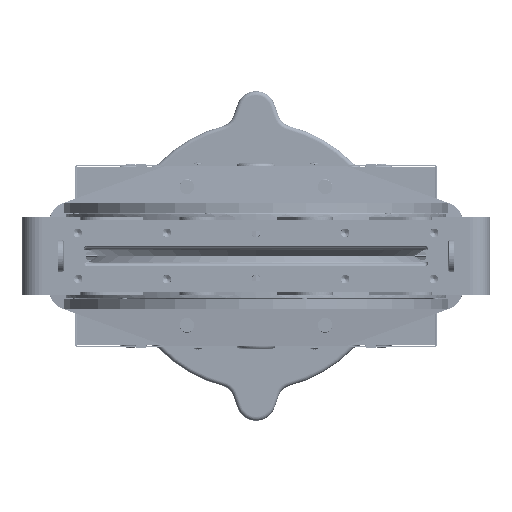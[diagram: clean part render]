
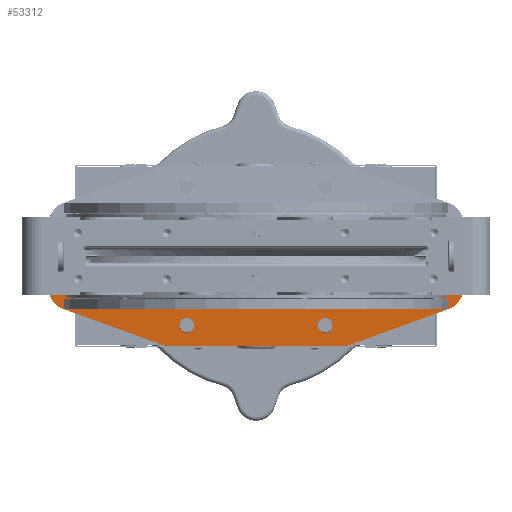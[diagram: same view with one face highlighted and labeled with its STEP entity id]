
A CAD part, front view. The second image highlights one B-rep face of the part: STEP entity #53312.
In plain terms, the highlighted planar face has unit normal (0, -0.998, -0.07).
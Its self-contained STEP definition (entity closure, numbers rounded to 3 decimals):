
#613=B_SPLINE_CURVE_WITH_KNOTS('',3,(#89838,#89839,#89840,#89841),
 .UNSPECIFIED.,.F.,.F.,(4,4),(0.,0.),.UNSPECIFIED.);
#614=B_SPLINE_CURVE_WITH_KNOTS('',3,(#89849,#89850,#89851,#89852),
 .UNSPECIFIED.,.F.,.F.,(4,4),(0.,0.),.UNSPECIFIED.);
#1090=ELLIPSE('',#58067,7.052,7.017);
#1091=ELLIPSE('',#58081,7.017,7.);
#1092=ELLIPSE('',#58083,7.052,7.017);
#1093=ELLIPSE('',#58097,7.017,7.);
#1094=ELLIPSE('',#58159,20.049,20.);
#1095=ELLIPSE('',#58163,20.049,20.);
#1096=ELLIPSE('',#58164,39.095,39.);
#1097=ELLIPSE('',#58165,39.095,39.);
#2560=FACE_BOUND('',#14525,.T.);
#2561=FACE_BOUND('',#14526,.T.);
#3874=LINE('',#88206,#6774);
#4351=LINE('',#89811,#7251);
#4360=LINE('',#89828,#7260);
#4361=LINE('',#89830,#7261);
#4362=LINE('',#89834,#7262);
#4363=LINE('',#89836,#7263);
#4364=LINE('',#89845,#7264);
#4365=LINE('',#89853,#7265);
#6774=VECTOR('',#67825,1.);
#7251=VECTOR('',#69664,1.);
#7260=VECTOR('',#69675,1.);
#7261=VECTOR('',#69676,1.);
#7262=VECTOR('',#69679,1.);
#7263=VECTOR('',#69680,1.);
#7264=VECTOR('',#69683,1.);
#7265=VECTOR('',#69686,1.);
#9249=PLANE('',#58162);
#11215=FACE_OUTER_BOUND('',#14524,.T.);
#14524=EDGE_LOOP('',(#40916,#40917,#40918,#40919,#40920,#40921,#40922,#40923,
#40924,#40925,#40926,#40927,#40928,#40929));
#14525=EDGE_LOOP('',(#40930,#40931));
#14526=EDGE_LOOP('',(#40932,#40933));
#22587=VERTEX_POINT('',#88203);
#22588=VERTEX_POINT('',#88205);
#22970=VERTEX_POINT('',#89596);
#22971=VERTEX_POINT('',#89597);
#22976=VERTEX_POINT('',#89622);
#22977=VERTEX_POINT('',#89623);
#23031=VERTEX_POINT('',#89801);
#23032=VERTEX_POINT('',#89802);
#23035=VERTEX_POINT('',#89810);
#23043=VERTEX_POINT('',#89829);
#23044=VERTEX_POINT('',#89831);
#23045=VERTEX_POINT('',#89833);
#23046=VERTEX_POINT('',#89835);
#23047=VERTEX_POINT('',#89837);
#23048=VERTEX_POINT('',#89842);
#23049=VERTEX_POINT('',#89844);
#23050=VERTEX_POINT('',#89846);
#23051=VERTEX_POINT('',#89848);
#28554=EDGE_CURVE('',#22587,#22588,#3874,.T.);
#29258=EDGE_CURVE('',#22970,#22971,#1090,.T.);
#29269=EDGE_CURVE('',#22971,#22970,#1091,.F.);
#29270=EDGE_CURVE('',#22976,#22977,#1092,.T.);
#29281=EDGE_CURVE('',#22977,#22976,#1093,.F.);
#29356=EDGE_CURVE('',#23031,#23032,#1094,.T.);
#29360=EDGE_CURVE('',#23032,#23035,#4351,.T.);
#29369=EDGE_CURVE('',#23031,#22588,#4360,.F.);
#29370=EDGE_CURVE('',#22587,#23043,#4361,.F.);
#29371=EDGE_CURVE('',#23044,#23043,#1095,.T.);
#29372=EDGE_CURVE('',#23044,#23045,#4362,.T.);
#29373=EDGE_CURVE('',#23045,#23046,#4363,.T.);
#29374=EDGE_CURVE('',#23046,#23047,#613,.T.);
#29375=EDGE_CURVE('',#23047,#23048,#1096,.F.);
#29376=EDGE_CURVE('',#23048,#23049,#4364,.T.);
#29377=EDGE_CURVE('',#23049,#23050,#1097,.F.);
#29378=EDGE_CURVE('',#23050,#23051,#614,.T.);
#29379=EDGE_CURVE('',#23051,#23035,#4365,.T.);
#40916=ORIENTED_EDGE('',*,*,#29356,.F.);
#40917=ORIENTED_EDGE('',*,*,#29369,.T.);
#40918=ORIENTED_EDGE('',*,*,#28554,.F.);
#40919=ORIENTED_EDGE('',*,*,#29370,.T.);
#40920=ORIENTED_EDGE('',*,*,#29371,.F.);
#40921=ORIENTED_EDGE('',*,*,#29372,.T.);
#40922=ORIENTED_EDGE('',*,*,#29373,.T.);
#40923=ORIENTED_EDGE('',*,*,#29374,.T.);
#40924=ORIENTED_EDGE('',*,*,#29375,.T.);
#40925=ORIENTED_EDGE('',*,*,#29376,.T.);
#40926=ORIENTED_EDGE('',*,*,#29377,.T.);
#40927=ORIENTED_EDGE('',*,*,#29378,.T.);
#40928=ORIENTED_EDGE('',*,*,#29379,.T.);
#40929=ORIENTED_EDGE('',*,*,#29360,.F.);
#40930=ORIENTED_EDGE('',*,*,#29258,.T.);
#40931=ORIENTED_EDGE('',*,*,#29269,.T.);
#40932=ORIENTED_EDGE('',*,*,#29270,.T.);
#40933=ORIENTED_EDGE('',*,*,#29281,.T.);
#53312=ADVANCED_FACE('',(#11215,#2560,#2561),#9249,.T.);
#58067=AXIS2_PLACEMENT_3D('',#89598,#69420,#69421);
#58081=AXIS2_PLACEMENT_3D('',#89620,#69452,#69453);
#58083=AXIS2_PLACEMENT_3D('',#89624,#69456,#69457);
#58097=AXIS2_PLACEMENT_3D('',#89646,#69488,#69489);
#58159=AXIS2_PLACEMENT_3D('',#89803,#69656,#69657);
#58162=AXIS2_PLACEMENT_3D('',#89827,#69673,#69674);
#58163=AXIS2_PLACEMENT_3D('',#89832,#69677,#69678);
#58164=AXIS2_PLACEMENT_3D('',#89843,#69681,#69682);
#58165=AXIS2_PLACEMENT_3D('',#89847,#69684,#69685);
#67825=DIRECTION('',(-1.,0.,0.));
#69420=DIRECTION('center_axis',(0.,0.998,0.07));
#69421=DIRECTION('ref_axis',(0.,0.07,-0.998));
#69452=DIRECTION('center_axis',(0.,-0.998,-0.07));
#69453=DIRECTION('ref_axis',(0.,0.07,-0.998));
#69456=DIRECTION('center_axis',(0.,0.998,0.07));
#69457=DIRECTION('ref_axis',(0.,0.07,-0.998));
#69488=DIRECTION('center_axis',(0.,-0.998,-0.07));
#69489=DIRECTION('ref_axis',(0.,0.07,-0.998));
#69656=DIRECTION('center_axis',(0.,0.998,0.07));
#69657=DIRECTION('ref_axis',(0.,0.07,-0.998));
#69664=DIRECTION('',(0.,-0.07,0.998));
#69673=DIRECTION('center_axis',(0.,-0.998,-0.07));
#69674=DIRECTION('ref_axis',(0.,0.07,-0.998));
#69675=DIRECTION('',(-0.939,-0.024,0.342));
#69676=DIRECTION('',(-0.939,0.024,-0.342));
#69677=DIRECTION('center_axis',(0.,0.998,0.07));
#69678=DIRECTION('ref_axis',(0.,0.07,-0.998));
#69679=DIRECTION('',(0.,-0.07,0.998));
#69680=DIRECTION('',(-1.,0.,0.));
#69681=DIRECTION('center_axis',(0.,-0.998,-0.07));
#69682=DIRECTION('ref_axis',(0.,-0.07,0.998));
#69683=DIRECTION('',(-1.,0.,0.));
#69684=DIRECTION('center_axis',(0.,-0.998,-0.07));
#69685=DIRECTION('ref_axis',(0.,-0.07,0.998));
#69686=DIRECTION('',(-1.,0.,0.));
#88203=CARTESIAN_POINT('',(90.,258.5,-87.5));
#88205=CARTESIAN_POINT('',(-90.,258.5,-87.5));
#88206=CARTESIAN_POINT('',(404798.025,258.5,-87.5));
#89596=CARTESIAN_POINT('',(-60.5,257.101,-67.5));
#89597=CARTESIAN_POINT('',(-74.5,257.101,-67.5));
#89598=CARTESIAN_POINT('Origin',(-67.5,257.136,-67.992));
#89620=CARTESIAN_POINT('Origin',(-67.5,257.101,-67.5));
#89622=CARTESIAN_POINT('',(74.5,257.101,-67.5));
#89623=CARTESIAN_POINT('',(60.5,257.101,-67.5));
#89624=CARTESIAN_POINT('Origin',(67.5,257.136,-67.992));
#89646=CARTESIAN_POINT('Origin',(67.5,257.101,-67.5));
#89801=CARTESIAN_POINT('',(-188.841,255.984,-51.525));
#89802=CARTESIAN_POINT('',(-202.,254.67,-32.731));
#89803=CARTESIAN_POINT('Origin',(-182.,254.67,-32.731));
#89810=CARTESIAN_POINT('',(-202.,253.5,-15.997));
#89811=CARTESIAN_POINT('',(-202.,258.5,-87.5));
#89827=CARTESIAN_POINT('Origin',(404798.025,258.5,-87.5));
#89828=CARTESIAN_POINT('',(357230.738,9352.769,-130141.613));
#89829=CARTESIAN_POINT('',(188.84,255.984,-51.525));
#89830=CARTESIAN_POINT('',(357251.885,-8831.726,129908.795));
#89831=CARTESIAN_POINT('',(202.,254.67,-32.731));
#89832=CARTESIAN_POINT('Origin',(182.,254.67,-32.731));
#89833=CARTESIAN_POINT('',(202.,253.5,-15.997));
#89834=CARTESIAN_POINT('',(202.,246.298,86.996));
#89835=CARTESIAN_POINT('',(200.77,253.5,-15.997));
#89836=CARTESIAN_POINT('',(-202.,253.5,-15.997));
#89837=CARTESIAN_POINT('',(200.482,253.497,-15.947));
#89838=CARTESIAN_POINT('Ctrl Pts',(200.77,253.5,-15.997));
#89839=CARTESIAN_POINT('Ctrl Pts',(200.671,253.5,-15.997));
#89840=CARTESIAN_POINT('Ctrl Pts',(200.575,253.499,-15.981));
#89841=CARTESIAN_POINT('Ctrl Pts',(200.482,253.497,-15.947));
#89842=CARTESIAN_POINT('',(164.,255.26,-41.163));
#89843=CARTESIAN_POINT('Origin',(164.,252.533,-2.163));
#89844=CARTESIAN_POINT('',(-164.,255.26,-41.163));
#89845=CARTESIAN_POINT('',(404798.025,255.26,-41.163));
#89846=CARTESIAN_POINT('',(-200.483,253.497,-15.947));
#89847=CARTESIAN_POINT('Origin',(-164.,252.533,-2.163));
#89848=CARTESIAN_POINT('',(-200.771,253.5,-15.997));
#89849=CARTESIAN_POINT('Ctrl Pts',(-200.483,253.497,-15.947));
#89850=CARTESIAN_POINT('Ctrl Pts',(-200.576,253.499,-15.981));
#89851=CARTESIAN_POINT('Ctrl Pts',(-200.672,253.5,-15.997));
#89852=CARTESIAN_POINT('Ctrl Pts',(-200.771,253.5,-15.997));
#89853=CARTESIAN_POINT('',(-202.,253.5,-15.997));
